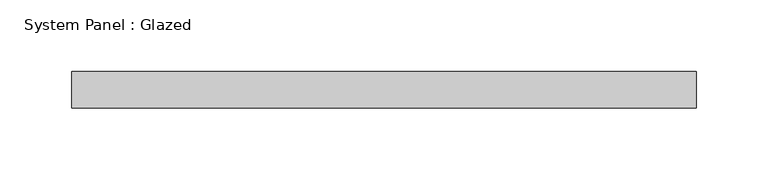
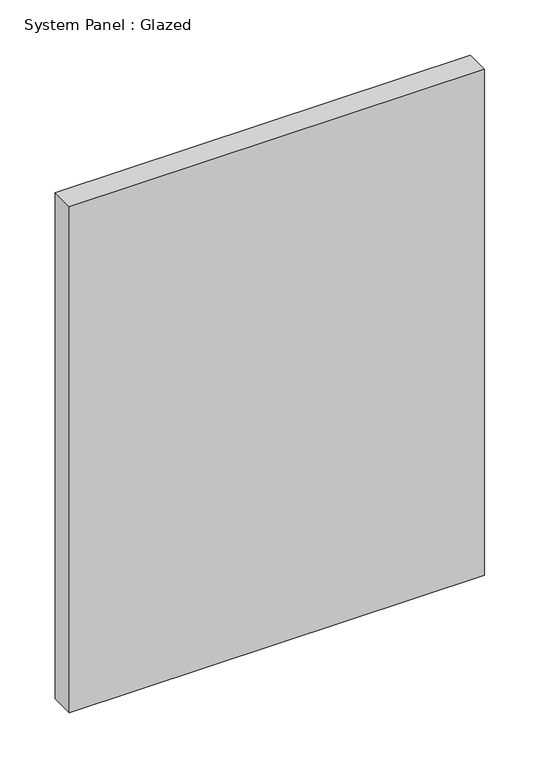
"""IFC4 building model written with IfcOpenShell, lengths in millimetres: plate geometry, System Panel : Glazed."""

import ifcopenshell
import ifcopenshell.guid

model = None  # the IFC model being written
_history = None  # IfcOwnerHistory: only IFC2X3 demands one
_inside = {}  # id of a spatial element -> (the spatial element, [elements in it])
_under = {}  # id of a project, library or spatial element -> (it, [spatial elements below it])
_declared = {}  # id of a project -> (the project, [libraries it declares])
_typed = {}  # id of a type object -> (the type object, [elements of that type])
_made_of = {}  # id of a material, layer set ... -> (it, [elements and type objects made of it])


def new_model(schema):
    """Start an empty IFC model of exactly this schema.

    Asked for "IFC4X3", IfcOpenShell would pick the latest addendum, in which some entities
    have other attributes; the version numbers below select the first issue.
    IFC2X3 requires an IfcOwnerHistory on every rooted entity: one is made here for all.
    """
    global model, _history
    if schema == "IFC4X3":
        model = ifcopenshell.file(schema_version=(4, 3, 0, 0))
    else:
        model = ifcopenshell.file(schema=schema)
    _inside.clear()
    _under.clear()
    _declared.clear()
    _typed.clear()
    _made_of.clear()
    _history = None
    if model.schema == "IFC2X3":
        org = make("IfcOrganization", Name="unknown")
        user = make(
            "IfcPersonAndOrganization",
            ThePerson=make("IfcPerson", FamilyName="unknown"),
            TheOrganization=org,
        )
        app = make(
            "IfcApplication",
            ApplicationDeveloper=org,
            Version="unknown",
            ApplicationFullName="unknown",
            ApplicationIdentifier="unknown",
        )
        _history = make(
            "IfcOwnerHistory",
            OwningUser=user,
            OwningApplication=app,
            ChangeAction="ADDED",
            CreationDate=0,
        )
    return model


def make(cls, **values):
    """One entity of the class cls with the attributes given. An attribute that is None is left unset."""
    return model.create_entity(
        cls, **{name: value for name, value in values.items() if value is not None}
    )


def rooted(cls, **values):
    """An entity with a GlobalId (a new one), such as an element, a storey or a relation."""
    return make(cls, GlobalId=ifcopenshell.guid.new(), OwnerHistory=_history, **values)


def si_unit(unit_type, name, prefix=None):
    """IfcSIUnit, for example si_unit("LENGTHUNIT", "METRE", prefix="MILLI")."""
    return make("IfcSIUnit", UnitType=unit_type, Prefix=prefix, Name=name)


def assignment(units):
    """IfcUnitAssignment: the units of a project."""
    return None if units is None else make("IfcUnitAssignment", Units=units)


def point(xyz):
    """IfcCartesianPoint."""
    return None if xyz is None else make("IfcCartesianPoint", Coordinates=xyz)


def direction(xyz):
    """IfcDirection."""
    return None if xyz is None else make("IfcDirection", DirectionRatios=xyz)


def frame(location, z_axis=None, x_axis=None):
    """IfcAxis2Placement3D, a coordinate frame: its origin and axes. An axis left out is left unset."""
    return make(
        "IfcAxis2Placement3D",
        Location=point(location),
        Axis=direction(z_axis),
        RefDirection=direction(x_axis),
    )


def origin():
    """The frame at (0, 0, 0) with its axes left unset."""
    return frame((0.0, 0.0, 0.0))


def origin_with_axes():
    """The frame at (0, 0, 0) with the z axis (0, 0, 1) and the x axis (1, 0, 0) written out."""
    return frame((0.0, 0.0, 0.0), z_axis=(0.0, 0.0, 1.0), x_axis=(1.0, 0.0, 0.0))


def place(relative_to, where):
    """IfcLocalPlacement: puts the frame where relative to a parent placement (None: the world)."""
    return make(
        "IfcLocalPlacement", PlacementRelTo=relative_to, RelativePlacement=where
    )


def context(
    kind, dimensions, precision=None, world=None, true_north=None, identifier=None
):
    """IfcGeometricRepresentationContext, for example the 3D "Model" context."""
    return make(
        "IfcGeometricRepresentationContext",
        ContextIdentifier=identifier,
        ContextType=kind,
        CoordinateSpaceDimension=dimensions,
        Precision=precision,
        WorldCoordinateSystem=world,
        TrueNorth=true_north,
    )


def project(units=None, contexts=None):
    """IfcProject with its units and contexts."""
    return rooted(
        "IfcProject",
        Name="project",
        RepresentationContexts=contexts,
        UnitsInContext=assignment(units),
    )


def spatial(cls, under=None, at=None, **own):
    """A site, building, storey or space (cls), placed at a placement, below another one or the project."""
    s = rooted(cls, ObjectPlacement=at, **own)
    if under is not None:
        _under.setdefault(under.id(), (under, []))[1].append(s)
    return s


def polyline(points):
    """IfcPolyline through the points."""
    return make("IfcPolyline", Points=[point(p) for p in points])


def outline(outer, holes=None, kind="AREA"):
    """IfcArbitraryClosedProfileDef: a profile drawn as a closed curve; with holes, ...WithVoids."""
    if holes is None:
        return make("IfcArbitraryClosedProfileDef", ProfileType=kind, OuterCurve=outer)
    return make(
        "IfcArbitraryProfileDefWithVoids",
        ProfileType=kind,
        OuterCurve=outer,
        InnerCurves=holes,
    )


def extrude(swept, where, along, depth):
    """IfcExtrudedAreaSolid: the profile swept, set in the frame where, extruded along a direction by depth."""
    return make(
        "IfcExtrudedAreaSolid",
        SweptArea=swept,
        Position=where,
        ExtrudedDirection=direction(along),
        Depth=depth,
    )


def shape(context_of_items, identifier, shape_type, items):
    """IfcShapeRepresentation: the items that make up one representation, for example the "Body"."""
    return make(
        "IfcShapeRepresentation",
        ContextOfItems=context_of_items,
        RepresentationIdentifier=identifier,
        RepresentationType=shape_type,
        Items=items,
    )


def source(mapping_origin, context_of_items, identifier, shape_type, items):
    """IfcRepresentationMap: a shape defined once, which mapped items show again and again."""
    return make(
        "IfcRepresentationMap",
        MappingOrigin=mapping_origin,
        MappedRepresentation=shape(context_of_items, identifier, shape_type, items),
    )


def transform(
    local_origin,
    x_axis=None,
    y_axis=None,
    z_axis=None,
    scale=None,
    scale2=None,
    scale3=None,
    uniform=True,
):
    """IfcCartesianTransformationOperator3D, or its non-uniform kind. x_axis, y_axis, z_axis: its Axis1, 2, 3."""
    if uniform:
        return make(
            "IfcCartesianTransformationOperator3D",
            Axis1=direction(x_axis),
            Axis2=direction(y_axis),
            LocalOrigin=point(local_origin),
            Scale=scale,
            Axis3=direction(z_axis),
        )
    return make(
        "IfcCartesianTransformationOperator3DnonUniform",
        Axis1=direction(x_axis),
        Axis2=direction(y_axis),
        LocalOrigin=point(local_origin),
        Scale=scale,
        Axis3=direction(z_axis),
        Scale2=scale2,
        Scale3=scale3,
    )


def mapped(mapping_source, mapping_target):
    """IfcMappedItem: shows the shape of a source again, moved by a transform."""
    return make(
        "IfcMappedItem", MappingSource=mapping_source, MappingTarget=mapping_target
    )


def made_of(thing, what):
    """Note that an element or type object is made of a material, layer set ...; save() writes the relation."""
    if what is not None:
        _made_of.setdefault(what.id(), (what, []))[1].append(thing)
    return thing


def element(
    cls,
    number,
    at=None,
    inside=None,
    cuts=None,
    type_object=None,
    material=None,
    context=None,
    identifier="Body",
    shape_type=None,
    held_by="IfcProductDefinitionShape",
    body=None,
    shapes=None,
    **own,
):
    """One element of the class cls, such as IfcWall. Its Tag is "e" and its number.

    at: its placement. inside: the storey or other place that contains it. cuts: it is an
    opening in that element (IfcRelVoidsElement). A single representation is given by context,
    identifier, shape_type and body (its items); several are given by shapes. held_by: the class
    of the entity that holds the representations. save() writes the other relations.
    """
    e = rooted(cls, Tag="e%d" % number, ObjectPlacement=at, **own)
    if body is not None:
        shapes = [shape(context, identifier, shape_type, body)]
    if shapes is not None:
        e.Representation = make(held_by, Representations=shapes)
    if inside is not None:
        _inside.setdefault(inside.id(), (inside, []))[1].append(e)
    if cuts is not None:
        rooted(
            "IfcRelVoidsElement", RelatingBuildingElement=cuts, RelatedOpeningElement=e
        )
    if type_object is not None:
        _typed.setdefault(type_object.id(), (type_object, []))[1].append(e)
    return made_of(e, material)


def aggregate(whole, parts):
    """IfcRelAggregates: a whole, such as a stair, and the parts it consists of."""
    return rooted("IfcRelAggregates", RelatingObject=whole, RelatedObjects=parts)


def save(model, path):
    """Write the relations noted so far, then the file.

    IfcRelAggregates (storeys below a building ...), IfcRelContainedInSpatialStructure (elements
    in a storey), IfcRelDefinesByType, IfcRelAssociatesMaterial and IfcRelDeclares: one each for
    every whole, place, type object, material and project.
    """
    for whole, parts in _under.values():
        aggregate(whole, parts)
    for where, things in _inside.values():
        rooted(
            "IfcRelContainedInSpatialStructure",
            RelatedElements=things,
            RelatingStructure=where,
        )
    for kind, things in _typed.values():
        rooted("IfcRelDefinesByType", RelatedObjects=things, RelatingType=kind)
    for what, things in _made_of.values():
        rooted("IfcRelAssociatesMaterial", RelatedObjects=things, RelatingMaterial=what)
    for by, libraries in _declared.values():
        rooted("IfcRelDeclares", RelatingContext=by, RelatedDefinitions=libraries)
    model.write(path)


def system_panel_glazed_28fcd7fc(model_context):
    return source(origin(), model_context, "Body", "SweptSolid", [
        extrude(outline(polyline([(217.17, -12.7), (-217.17, -12.7), (-217.17, 12.7), (217.17, 12.7), (217.17, -12.7)])), origin_with_axes(), (0.0, 0.0, 1.0), 558.8),
    ])


if __name__ == "__main__":
    model = new_model("IFC4")
    model_context = context("Model", 3, world=origin())
    ifc_project = project(units=[si_unit("LENGTHUNIT", "METRE", prefix="MILLI")], contexts=[model_context])
    site = spatial("IfcSite", under=ifc_project)
    building = spatial("IfcBuilding", under=site)
    placement = place(None, origin())
    system_panel_glazed_shape = system_panel_glazed_28fcd7fc(model_context)
    element("IfcPlate", 1, ObjectType="System Panel : Glazed", at=placement, inside=building, context=model_context, shape_type="MappedRepresentation", body=[
        mapped(system_panel_glazed_shape, transform((0.0, 0.0, 0.0), x_axis=(1.0, 0.0, 0.0), y_axis=(0.0, 1.0, 0.0), z_axis=(0.0, 0.0, 1.0))),
    ])
    save(model, "model.ifc")
